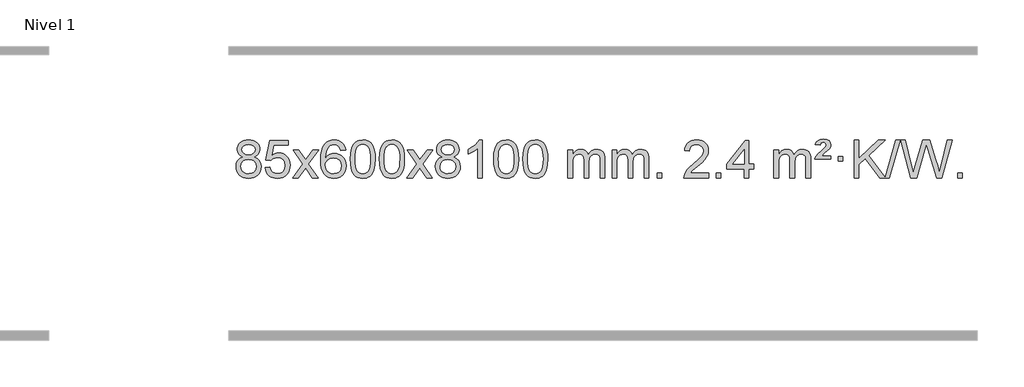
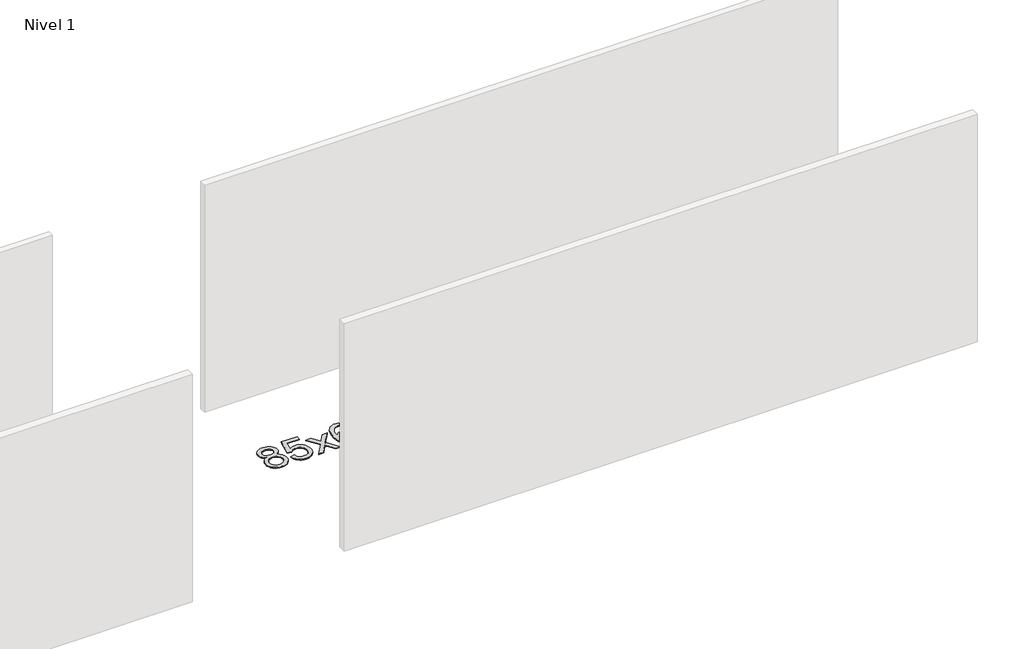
# One storey, part 8 of 12: 1 proxy.
"""IFC4 building model written with IfcOpenShell, lengths in millimetres."""

from ifc_helpers import new_model, si_unit, origin, origin_with_axes, place, context, project, spatial, polyline, outline, extrude, element, save

model = new_model("IFC4")

# Units and contexts
model_context = context("Model", 3, world=origin())
ifc_project = project(units=[si_unit("LENGTHUNIT", "METRE", prefix="MILLI")], contexts=[model_context])

# Site, building, storey
site = spatial("IfcSite", under=ifc_project)
building = spatial("IfcBuilding", under=site)
storey = spatial("IfcBuildingStorey", under=building, Name="Nivel 1", Elevation=0.0)

# Proxy
placement = place(None, origin())
element("IfcBuildingElementProxy", 1, Name="Texto de modelo 1", ObjectType="Texto de modelo 1", at=placement, inside=storey, context=model_context, shape_type="SweptSolid", body=[
    extrude(outline(polyline([(-1682.9857189, -6174.2616447), (-1709.8778927, -6161.0178929), (-1728.7502391, -6143.0652515), (-1739.8970635, -6120.7716026), (-1743.6126717, -6094.5048281), (-1741.5893207, -6074.0199324), (-1735.5192678, -6055.2395565), (-1725.4025129, -6038.1637006), (-1711.2390561, -6022.7923645), (-1693.709479, -6010.088173), (-1673.4943634, -6001.0137504), (-1650.5937092, -5995.5690969), (-1625.0075164, -5993.7542124), (-1599.2986964, -5995.6120165), (-1576.2263639, -6001.1854287), (-1555.7905191, -6010.4744491), (-1537.9911619, -6023.4790776), (-1523.5701876, -6039.1508506), (-1513.2694918, -6056.4413044), (-1507.0890743, -6075.3504389), (-1505.0289351, -6095.8782543), (-1508.6954923, -6121.2989001), (-1519.695164, -6143.2124043), (-1538.1505774, -6161.0546811), (-1564.1843599, -6174.2616447), (-1533.2700096, -6190.1909351), (-1510.7678942, -6213.6495436), (-1497.0458958, -6243.5092989), (-1492.4718963, -6278.6420295), (-1494.740502, -6303.6947933), (-1501.5463189, -6326.6628926), (-1512.8893471, -6347.5463272), (-1528.7695865, -6366.3450971), (-1548.3531714, -6381.88198), (-1570.8062358, -6392.9797536), (-1596.1287798, -6399.6384177), (-1624.3208034, -6401.8579724), (-1652.512827, -6399.6292206), (-1677.835371, -6392.9429654), (-1700.2884354, -6381.7992066), (-1719.8720203, -6366.1979443), (-1735.7522597, -6347.26735), (-1747.0952879, -6326.135595), (-1753.9011048, -6302.8026795), (-1756.1697105, -6277.2686033), (-1751.41177, -6240.7747094), (-1737.1379486, -6210.7555386), (-1714.0840102, -6188.2411605), (-1682.9857189, -6174.2616447)]), holes=[polyline([(-1693.3845166, -6095.9763561), (-1688.9331445, -6117.902123), (-1675.5790281, -6135.413306), (-1653.7145748, -6146.8912243), (-1623.7321922, -6150.717197), (-1594.4487854, -6146.9157497), (-1572.9154259, -6135.5114079), (-1559.6716741, -6118.5888361), (-1555.2570902, -6098.232699), (-1559.8188269, -6077.1040098), (-1573.5040371, -6059.629615), (-1595.3317022, -6047.8941794), (-1624.3208034, -6043.9823675), (-1653.4938456, -6047.8083402), (-1675.2847225, -6059.2862585), (-1688.8595681, -6076.1107284), (-1693.3845166, -6095.9763561)]), polyline([(-1705.9415554, -6275.5027698), (-1703.844628, -6294.7184726), (-1697.5538459, -6313.3210389), (-1685.9410376, -6329.5446349), (-1667.8780316, -6341.623427), (-1646.2465703, -6349.1282197), (-1623.9283959, -6351.6298173), (-1589.7398958, -6346.3691048), (-1575.8462192, -6339.7932141), (-1564.086258, -6330.5869672), (-1548.0466031, -6306.6869002), (-1542.7000514, -6277.0723996), (-1548.2182813, -6246.9551269), (-1564.7729711, -6222.5277625), (-1576.8517633, -6213.0854579), (-1591.0152201, -6206.3409547), (-1625.5961276, -6200.9453521), (-1659.3063811, -6206.2673783), (-1673.043708, -6212.919911), (-1684.7025015, -6222.2334569), (-1700.6317919, -6246.1948375), (-1705.9415554, -6275.5027698)])]), origin_with_axes(), (0.0, 0.0, 1.0), 10.0),
    extrude(outline(polyline([(-1448.5222606, -6288.8446235), (-1398.2941056, -6282.5661041), (-1389.0725302, -6312.7201649), (-1372.9838243, -6334.3148381), (-1350.1015642, -6347.3010725), (-1320.4993263, -6351.6298173), (-1301.3694626, -6350.1245668), (-1284.4959417, -6345.6088153), (-1269.8787638, -6338.0825628), (-1257.5179287, -6327.5458094), (-1247.6893481, -6314.519721), (-1240.6689334, -6299.5254641), (-1235.0526016, -6263.6324441), (-1240.3133141, -6229.8363514), (-1246.8892048, -6215.9181493), (-1256.0954517, -6203.9865099), (-1267.9627117, -6194.4154467), (-1282.5216417, -6187.5789729), (-1319.7145114, -6182.1097939), (-1344.0805622, -6184.2925604), (-1363.8112999, -6190.8408599), (-1379.568912, -6200.8717757), (-1392.0155862, -6213.5023908), (-1442.2437412, -6207.2238715), (-1398.2941056, -6000.0327318), (-1203.6600046, -6000.0327318), (-1203.6600046, -6050.2608869), (-1357.6799333, -6050.2608869), (-1379.1642418, -6160.919791), (-1361.438461, -6148.2155994), (-1343.2834845, -6139.1411769), (-1324.6993124, -6133.6965234), (-1305.6859446, -6131.8816388), (-1281.2248576, -6134.1318504), (-1258.7564648, -6140.882485), (-1238.2807661, -6152.1335427), (-1219.7977615, -6167.8850234), (-1204.4969362, -6187.1743027), (-1193.5677752, -6209.038756), (-1187.0102787, -6233.4783832), (-1184.8244465, -6260.4931844), (-1186.7926152, -6286.5147042), (-1192.6971212, -6310.7213394), (-1202.5379646, -6333.1130902), (-1216.3151453, -6353.6899565), (-1237.1863171, -6374.7634634), (-1261.5401052, -6389.8159684), (-1289.3765095, -6398.8474714), (-1320.69553, -6401.8579724), (-1346.6158823, -6399.9235262), (-1370.0285056, -6394.1201877), (-1390.9334, -6384.447957), (-1409.3305654, -6370.9068338), (-1424.6375221, -6354.1712688), (-1436.2717902, -6334.915712), (-1444.2333697, -6313.1401636), (-1448.5222606, -6288.8446235)])), origin_with_axes(), (0.0, 0.0, 1.0), 10.0),
    extrude(outline(polyline([(-1159.7103689, -6395.579453), (-1052.3869282, -6247.2494325), (-1153.4318496, -6100.4890419), (-1093.0011005, -6100.4890419), (-1044.2444734, -6171.122385), (-1021.4848406, -6204.4770192), (-1001.7663657, -6177.2047007), (-946.2407099, -6100.4890419), (-885.8099608, -6100.4890419), (-991.9561791, -6247.2494325), (-889.7340354, -6395.579453), (-950.1647845, -6395.579453), (-1011.6746541, -6306.4048574), (-1022.9563686, -6290.1199477), (-1099.2796199, -6395.579453), (-1159.7103689, -6395.579453)])), origin_with_axes(), (0.0, 0.0, 1.0), 10.0),
    extrude(outline(polyline([(-600.9221437, -6100.4890419), (-651.1502988, -6106.7675613), (-659.2437027, -6081.874213), (-670.1820607, -6064.8780648), (-692.9662189, -6049.2062918), (-720.5083176, -6043.9823675), (-743.8565616, -6047.0235253), (-765.8313794, -6056.1469988), (-784.7037258, -6075.3627017), (-800.1179814, -6101.8134171), (-810.5290419, -6139.227016), (-814.3918028, -6191.3313693), (-794.2441322, -6167.8237098), (-770.0988106, -6151.2567573), (-743.3047386, -6141.434308), (-715.2108169, -6138.1601582), (-691.077758, -6140.398107), (-668.8086346, -6147.1119534), (-648.4034466, -6158.3016975), (-629.862194, -6173.9673391), (-614.4540698, -6193.1769106), (-603.4482668, -6214.9984443), (-596.844785, -6239.4319401), (-594.6436244, -6266.4773982), (-598.7884282, -6302.4439945), (-611.2228396, -6335.786366), (-630.9167891, -6364.0642287), (-656.840207, -6384.8372987), (-687.815871, -6397.602804), (-722.6665587, -6401.8579724), (-752.6090874, -6399.0375437), (-779.6514797, -6390.5762579), (-803.7937357, -6376.4741147), (-825.0358552, -6356.7311143), (-842.3539001, -6330.5133908), (-854.7239322, -6296.9870783), (-862.1459515, -6256.1521768), (-864.6199579, -6208.0086864), (-861.8731057, -6154.0342663), (-853.632549, -6107.9693092), (-839.8982878, -6069.8138149), (-820.6703222, -6039.5677835), (-799.8298072, -6019.5243462), (-775.6660915, -6005.2076052), (-748.179175, -5996.6175606), (-717.3690579, -5993.7542124), (-694.2354118, -5995.5261773), (-673.2967949, -6000.8420722), (-654.5532073, -6009.7018969), (-638.0046489, -6022.1056515), (-624.0987094, -6037.6364031), (-613.2829788, -6055.8772186), (-605.5574569, -6076.8280983), (-600.9221437, -6100.4890419)]), holes=[polyline([(-814.3918028, -6265.6925832), (-811.485535, -6287.9494439), (-802.7667318, -6309.2007605), (-789.2286743, -6327.472233), (-771.8646442, -6340.7895612), (-750.9076332, -6348.9197533), (-726.5906333, -6351.6298173), (-693.4444655, -6346.0134855), (-679.5293291, -6338.9930708), (-667.3861575, -6329.1644901), (-657.5361171, -6316.9262824), (-650.500374, -6302.6769865), (-644.8717794, -6268.1451299), (-650.4267976, -6234.9989621), (-657.3705702, -6221.3781312), (-667.0918519, -6209.725469), (-679.2718117, -6200.3904634), (-693.5916183, -6193.7226022), (-728.6507725, -6188.3883133), (-761.7478893, -6193.7226022), (-789.4248781, -6209.725469), (-800.3479076, -6221.2248471), (-808.1500716, -6234.3858254), (-812.83137, -6249.2084042), (-814.3918028, -6265.6925832)])]), origin_with_axes(), (0.0, 0.0, 1.0), 10.0),
    extrude(outline(polyline([(-550.6939887, -6197.9041943), (-547.002906, -6133.5861588), (-535.9296579, -6082.2911459), (-517.5846091, -6043.2343407), (-505.7265461, -6028.0009605), (-492.0781241, -6015.6309284), (-476.5933578, -6006.0598651), (-459.2262619, -5999.2233914), (-418.8450816, -5993.7542124), (-387.8939431, -5996.991574), (-360.1801661, -6006.7036586), (-337.0036004, -6022.5103217), (-319.6640957, -6044.0314184), (-306.5674967, -6071.0830078), (-296.119648, -6103.4811488), (-289.2770429, -6144.6226186), (-286.9961745, -6197.9041943), (-290.650469, -6261.8543477), (-301.6133525, -6313.0267333), (-319.8480367, -6352.1203266), (-331.6785085, -6367.3996922), (-345.3177335, -6379.8341036), (-360.8208939, -6389.4695462), (-378.2431721, -6396.3520052), (-418.8450816, -6401.8579724), (-446.5098076, -6399.4667394), (-471.035274, -6392.2930405), (-492.4214806, -6380.3368757), (-510.6684276, -6363.5982449), (-528.1796106, -6333.3399508), (-540.6875984, -6295.6381776), (-548.1923911, -6250.4929255), (-550.6939887, -6197.9041943)]), holes=[polyline([(-500.4658336, -6197.8060924), (-498.9943056, -6241.4706195), (-494.5797217, -6276.8148822), (-487.2220818, -6303.8388804), (-476.9213859, -6322.5426142), (-464.462449, -6335.2682656), (-450.630086, -6344.3580165), (-435.4242968, -6349.8118671), (-418.8450816, -6351.6298173), (-402.2658663, -6349.8057357), (-387.0600772, -6344.3334911), (-373.2277142, -6335.2130833), (-360.7687773, -6322.4445124), (-350.4680814, -6303.7101217), (-343.1104415, -6276.6922549), (-338.6958576, -6241.3909118), (-337.2243296, -6197.8060924), (-338.6468066, -6155.2973278), (-342.9142378, -6120.5753989), (-350.026623, -6093.6403055), (-359.9839624, -6074.4920476), (-372.2344328, -6061.1440625), (-386.2262114, -6051.6097875), (-401.959298, -6045.8892225), (-419.4336928, -6043.9823675), (-435.9270689, -6045.6623619), (-450.8753406, -6050.7023452), (-464.278508, -6059.1023175), (-476.136571, -6070.8622786), (-486.7806234, -6091.708925), (-494.3835179, -6119.8151094), (-498.9452547, -6155.1808319), (-500.4658336, -6197.8060924)])]), origin_with_axes(), (0.0, 0.0, 1.0), 10.0),
    extrude(outline(polyline([(-243.0465388, -6197.9041943), (-239.3554561, -6133.5861588), (-228.2822081, -6082.2911459), (-209.9371593, -6043.2343407), (-198.0790963, -6028.0009605), (-184.4306743, -6015.6309284), (-168.945908, -6006.0598651), (-151.5788121, -5999.2233914), (-111.1976318, -5993.7542124), (-80.2464932, -5996.991574), (-52.5327163, -6006.7036586), (-29.3561506, -6022.5103217), (-12.0166459, -6044.0314184), (1.0799532, -6071.0830078), (11.5278018, -6103.4811488), (18.3704069, -6144.6226186), (20.6512753, -6197.9041943), (16.9969808, -6261.8543477), (6.0340974, -6313.0267333), (-12.2005869, -6352.1203266), (-24.0310587, -6367.3996922), (-37.6702837, -6379.8341036), (-53.1734441, -6389.4695462), (-70.5957222, -6396.3520052), (-111.1976318, -6401.8579724), (-138.8623578, -6399.4667394), (-163.3878241, -6392.2930405), (-184.7740308, -6380.3368757), (-203.0209778, -6363.5982449), (-220.5321607, -6333.3399508), (-233.0401486, -6295.6381776), (-240.5449413, -6250.4929255), (-243.0465388, -6197.9041943)]), holes=[polyline([(-192.8183838, -6197.8060924), (-191.3468558, -6241.4706195), (-186.9322718, -6276.8148822), (-179.5746319, -6303.8388804), (-169.2739361, -6322.5426142), (-156.8149992, -6335.2682656), (-142.9826361, -6344.3580165), (-127.776847, -6349.8118671), (-111.1976318, -6351.6298173), (-94.6184165, -6349.8057357), (-79.4126274, -6344.3334911), (-65.5802644, -6335.2130833), (-53.1213275, -6322.4445124), (-42.8206316, -6303.7101217), (-35.4629917, -6276.6922549), (-31.0484077, -6241.3909118), (-29.5768798, -6197.8060924), (-30.9993568, -6155.2973278), (-35.266788, -6120.5753989), (-42.3791732, -6093.6403055), (-52.3365125, -6074.4920476), (-64.586983, -6061.1440625), (-78.5787615, -6051.6097875), (-94.3118482, -6045.8892225), (-111.786243, -6043.9823675), (-128.2796191, -6045.6623619), (-143.2278908, -6050.7023452), (-156.6310582, -6059.1023175), (-168.4891211, -6070.8622786), (-179.1331735, -6091.708925), (-186.7360681, -6119.8151094), (-191.2978048, -6155.1808319), (-192.8183838, -6197.8060924)])]), origin_with_axes(), (0.0, 0.0, 1.0), 10.0),
    extrude(outline(polyline([(45.7653528, -6395.579453), (153.0887936, -6247.2494325), (52.0438722, -6100.4890419), (112.4746213, -6100.4890419), (161.2312484, -6171.122385), (183.9908812, -6204.4770192), (203.7093561, -6177.2047007), (259.2350119, -6100.4890419), (319.665761, -6100.4890419), (213.5195426, -6247.2494325), (315.7416864, -6395.579453), (255.3109373, -6395.579453), (193.8010677, -6306.4048574), (182.5193532, -6290.1199477), (106.1961019, -6395.579453), (45.7653528, -6395.579453)])), origin_with_axes(), (0.0, 0.0, 1.0), 10.0),
    extrude(outline(polyline([(420.3182749, -6174.2616447), (393.426101, -6161.0178929), (374.5537547, -6143.0652515), (363.4069302, -6120.7716026), (359.6913221, -6094.5048281), (361.714673, -6074.0199324), (367.784726, -6055.2395565), (377.9014808, -6038.1637006), (392.0649376, -6022.7923645), (409.5945147, -6010.088173), (429.8096303, -6001.0137504), (452.7102845, -5995.5690969), (478.2964773, -5993.7542124), (504.0052974, -5995.6120165), (527.0776299, -6001.1854287), (547.5134747, -6010.4744491), (565.3128319, -6023.4790776), (579.7338061, -6039.1508506), (590.034502, -6056.4413044), (596.2149195, -6075.3504389), (598.2750587, -6095.8782543), (594.6085014, -6121.2989001), (583.6088298, -6143.2124043), (565.1534164, -6161.0546811), (539.1196338, -6174.2616447), (570.0339842, -6190.1909351), (592.5360995, -6213.6495436), (606.258098, -6243.5092989), (610.8320974, -6278.6420295), (608.5634918, -6303.6947933), (601.7576749, -6326.6628926), (590.4146467, -6347.5463272), (574.5344072, -6366.3450971), (554.9508224, -6381.88198), (532.4977579, -6392.9797536), (507.1752139, -6399.6384177), (478.9831904, -6401.8579724), (450.7911668, -6399.6292206), (425.4686228, -6392.9429654), (403.0155584, -6381.7992066), (383.4319735, -6366.1979443), (367.551734, -6347.26735), (356.2087058, -6326.135595), (349.4028889, -6302.8026795), (347.1342833, -6277.2686033), (351.8922238, -6240.7747094), (366.1660452, -6210.7555386), (389.2199835, -6188.2411605), (420.3182749, -6174.2616447)]), holes=[polyline([(409.9194771, -6095.9763561), (414.3708493, -6117.902123), (427.7249657, -6135.413306), (449.589419, -6146.8912243), (479.5718016, -6150.717197), (508.8552084, -6146.9157497), (530.3885678, -6135.5114079), (543.6323197, -6118.5888361), (548.0469036, -6098.232699), (543.4851669, -6077.1040098), (529.7999566, -6059.629615), (507.9722916, -6047.8941794), (478.9831904, -6043.9823675), (449.8101481, -6047.8083402), (428.0192713, -6059.2862585), (414.4444257, -6076.1107284), (409.9194771, -6095.9763561)]), polyline([(397.3624384, -6275.5027698), (399.4593657, -6294.7184726), (405.7501479, -6313.3210389), (417.3629562, -6329.5446349), (435.4259621, -6341.623427), (457.0574235, -6349.1282197), (479.3755978, -6351.6298173), (513.5640979, -6346.3691048), (527.4577746, -6339.7932141), (539.2177357, -6330.5869672), (555.2573907, -6306.6869002), (560.6039424, -6277.0723996), (555.0857124, -6246.9551269), (538.5310227, -6222.5277625), (526.4522305, -6213.0854579), (512.2887737, -6206.3409547), (477.7078661, -6200.9453521), (443.9976126, -6206.2673783), (430.2602858, -6212.919911), (418.6014922, -6222.2334569), (402.6722018, -6246.1948375), (397.3624384, -6275.5027698)])]), origin_with_axes(), (0.0, 0.0, 1.0), 10.0),
    extrude(outline(polyline([(843.1373147, -6395.579453), (792.9091596, -6395.579453), (792.9091596, -6082.4382987), (771.9398859, -6099.3976587), (745.3297549, -6116.3324932), (692.4528494, -6141.6918254), (692.4528494, -6094.2105225), (731.902062, -6072.7507395), (766.0782994, -6047.219729), (793.0195242, -6020.0700378), (810.7636991, -5993.7542124), (843.1373147, -5993.7542124), (843.1373147, -6395.579453)])), origin_with_axes(), (0.0, 0.0, 1.0), 10.0),
    extrude(outline(polyline([(962.429183, -6197.9041943), (966.1202656, -6133.5861588), (977.1935137, -6082.2911459), (995.5385625, -6043.2343407), (1007.3966255, -6028.0009605), (1021.0450475, -6015.6309284), (1036.5298138, -6006.0598651), (1053.8969097, -5999.2233914), (1094.27809, -5993.7542124), (1125.2292286, -5996.991574), (1152.9430055, -6006.7036586), (1176.1195712, -6022.5103217), (1193.4590759, -6044.0314184), (1206.555675, -6071.0830078), (1217.0035236, -6103.4811488), (1223.8461287, -6144.6226186), (1226.1269971, -6197.9041943), (1222.4727026, -6261.8543477), (1211.5098192, -6313.0267333), (1193.2751349, -6352.1203266), (1181.4446631, -6367.3996922), (1167.8054381, -6379.8341036), (1152.3022777, -6389.4695462), (1134.8799996, -6396.3520052), (1094.27809, -6401.8579724), (1066.613364, -6399.4667394), (1042.0878976, -6392.2930405), (1020.701691, -6380.3368757), (1002.454744, -6363.5982449), (984.9435611, -6333.3399508), (972.4355732, -6295.6381776), (964.9307805, -6250.4929255), (962.429183, -6197.9041943)]), holes=[polyline([(1012.657338, -6197.8060924), (1014.128866, -6241.4706195), (1018.54345, -6276.8148822), (1025.9010899, -6303.8388804), (1036.2017857, -6322.5426142), (1048.6607226, -6335.2682656), (1062.4930856, -6344.3580165), (1077.6988748, -6349.8118671), (1094.27809, -6351.6298173), (1110.8573053, -6349.8057357), (1126.0630944, -6344.3334911), (1139.8954574, -6335.2130833), (1152.3543943, -6322.4445124), (1162.6550902, -6303.7101217), (1170.0127301, -6276.6922549), (1174.427314, -6241.3909118), (1175.898842, -6197.8060924), (1174.476365, -6155.2973278), (1170.2089338, -6120.5753989), (1163.0965486, -6093.6403055), (1153.1392093, -6074.4920476), (1140.8887388, -6061.1440625), (1126.8969603, -6051.6097875), (1111.1638736, -6045.8892225), (1093.6894788, -6043.9823675), (1077.1961027, -6045.6623619), (1062.247831, -6050.7023452), (1048.8446636, -6059.1023175), (1036.9866007, -6070.8622786), (1026.3425483, -6091.708925), (1018.7396537, -6119.8151094), (1014.1779169, -6155.1808319), (1012.657338, -6197.8060924)])]), origin_with_axes(), (0.0, 0.0, 1.0), 10.0),
    extrude(outline(polyline([(1270.0766328, -6197.9041943), (1273.7677155, -6133.5861588), (1284.8409635, -6082.2911459), (1303.1860124, -6043.2343407), (1315.0440753, -6028.0009605), (1328.6924974, -6015.6309284), (1344.1772637, -6006.0598651), (1361.5443595, -5999.2233914), (1401.9255399, -5993.7542124), (1432.8766784, -5996.991574), (1460.5904554, -6006.7036586), (1483.7670211, -6022.5103217), (1501.1065258, -6044.0314184), (1514.2031248, -6071.0830078), (1524.6509735, -6103.4811488), (1531.4935786, -6144.6226186), (1533.7744469, -6197.9041943), (1530.1201525, -6261.8543477), (1519.157269, -6313.0267333), (1500.9225848, -6352.1203266), (1489.0921129, -6367.3996922), (1475.452888, -6379.8341036), (1459.9497276, -6389.4695462), (1442.5274494, -6396.3520052), (1401.9255399, -6401.8579724), (1374.2608138, -6399.4667394), (1349.7353475, -6392.2930405), (1328.3491408, -6380.3368757), (1310.1021939, -6363.5982449), (1292.5910109, -6333.3399508), (1280.0830231, -6295.6381776), (1272.5782304, -6250.4929255), (1270.0766328, -6197.9041943)]), holes=[polyline([(1320.3047879, -6197.8060924), (1321.7763158, -6241.4706195), (1326.1908998, -6276.8148822), (1333.5485397, -6303.8388804), (1343.8492356, -6322.5426142), (1356.3081725, -6335.2682656), (1370.1405355, -6344.3580165), (1385.3463246, -6349.8118671), (1401.9255399, -6351.6298173), (1418.5047551, -6349.8057357), (1433.7105442, -6344.3334911), (1447.5429073, -6335.2130833), (1460.0018442, -6322.4445124), (1470.30254, -6303.7101217), (1477.6601799, -6276.6922549), (1482.0747639, -6241.3909118), (1483.5462919, -6197.8060924), (1482.1238148, -6155.2973278), (1477.8563837, -6120.5753989), (1470.7439984, -6093.6403055), (1460.7866591, -6074.4920476), (1448.5361887, -6061.1440625), (1434.5444101, -6051.6097875), (1418.8113234, -6045.8892225), (1401.3369287, -6043.9823675), (1384.8435526, -6045.6623619), (1369.8952808, -6050.7023452), (1356.4921135, -6059.1023175), (1344.6340505, -6070.8622786), (1333.9899981, -6091.708925), (1326.3871035, -6119.8151094), (1321.8253668, -6155.1808319), (1320.3047879, -6197.8060924)])]), origin_with_axes(), (0.0, 0.0, 1.0), 10.0),
    extrude(outline(polyline([(1747.244106, -6395.579453), (1747.244106, -6100.4890419), (1797.4722611, -6100.4890419), (1797.4722611, -6149.0494653), (1812.5799483, -6126.7435537), (1832.0041177, -6109.2691589), (1855.0825815, -6097.9751816), (1881.1531522, -6094.2105225), (1909.0876584, -6098.048758), (1931.4794092, -6109.5634645), (1948.2057772, -6127.9943524), (1959.1441352, -6152.5811324), (1977.4523959, -6127.0439906), (1998.3358304, -6108.803175), (2021.794439, -6097.8586857), (2047.8282215, -6094.2105225), (2067.9360383, -6095.7280358), (2085.585177, -6100.2805755), (2100.7756377, -6107.8681416), (2113.5074204, -6118.4907342), (2123.5720587, -6132.2709806), (2130.761086, -6149.3315082), (2135.0745024, -6169.6723168), (2136.5123078, -6193.2934066), (2136.5123078, -6395.579453), (2086.2841528, -6395.579453), (2086.2841528, -6214.875817), (2085.1191931, -6189.8230531), (2081.6243142, -6172.9372695), (2075.0760146, -6161.3735121), (2064.7507933, -6152.2868268), (2051.4702533, -6146.4007149), (2036.0559977, -6144.4386776), (2008.8449928, -6149.4663982), (1986.6617085, -6164.54956), (1978.0563355, -6176.1194488), (1971.9096405, -6190.7182326), (1966.9922845, -6229.0024856), (1966.9922845, -6395.579453), (1916.7641294, -6395.579453), (1916.7641294, -6209.2840106), (1913.8578616, -6180.8835206), (1905.1390583, -6160.6254854), (1889.7983791, -6148.4853796), (1867.0264836, -6144.4386776), (1847.6758907, -6147.1364789), (1829.8458767, -6155.2298828), (1815.1305968, -6168.5226856), (1805.1242066, -6186.8186835), (1799.3852475, -6212.2025411), (1797.4722611, -6246.7589232), (1797.4722611, -6395.579453), (1747.244106, -6395.579453)])), origin_with_axes(), (0.0, 0.0, 1.0), 10.0),
    extrude(outline(polyline([(2211.8545404, -6395.579453), (2211.8545404, -6100.4890419), (2262.0826955, -6100.4890419), (2262.0826955, -6149.0494653), (2277.1903828, -6126.7435537), (2296.6145521, -6109.2691589), (2319.693016, -6097.9751816), (2345.7635867, -6094.2105225), (2373.6980929, -6098.048758), (2396.0898436, -6109.5634645), (2412.8162117, -6127.9943524), (2423.7545697, -6152.5811324), (2442.0628303, -6127.0439906), (2462.9462649, -6108.803175), (2486.4048734, -6097.8586857), (2512.438656, -6094.2105225), (2532.5464727, -6095.7280358), (2550.1956114, -6100.2805755), (2565.3860721, -6107.8681416), (2578.1178548, -6118.4907342), (2588.1824931, -6132.2709806), (2595.3715204, -6149.3315082), (2599.6849368, -6169.6723168), (2601.1227423, -6193.2934066), (2601.1227423, -6395.579453), (2550.8945872, -6395.579453), (2550.8945872, -6214.875817), (2549.7296276, -6189.8230531), (2546.2347486, -6172.9372695), (2539.6864491, -6161.3735121), (2529.3612278, -6152.2868268), (2516.0806877, -6146.4007149), (2500.6664321, -6144.4386776), (2473.4554272, -6149.4663982), (2451.2721429, -6164.54956), (2442.6667699, -6176.1194488), (2436.5200749, -6190.7182326), (2431.6027189, -6229.0024856), (2431.6027189, -6395.579453), (2381.3745638, -6395.579453), (2381.3745638, -6209.2840106), (2378.4682961, -6180.8835206), (2369.7494928, -6160.6254854), (2354.4088136, -6148.4853796), (2331.6369181, -6144.4386776), (2312.2863251, -6147.1364789), (2294.4563111, -6155.2298828), (2279.7410313, -6168.5226856), (2269.734641, -6186.8186835), (2263.9956819, -6212.2025411), (2262.0826955, -6246.7589232), (2262.0826955, -6395.579453), (2211.8545404, -6395.579453)])), origin_with_axes(), (0.0, 0.0, 1.0), 10.0),
    extrude(outline(polyline([(2689.0220137, -6395.579453), (2689.0220137, -6345.3512979), (2739.2501687, -6345.3512979), (2739.2501687, -6395.579453), (2689.0220137, -6395.579453)])), origin_with_axes(), (0.0, 0.0, 1.0), 10.0),
    extrude(outline(polyline([(3235.2532001, -6345.3512979), (3235.2532001, -6395.579453), (2971.555386, -6395.579453), (2972.6590319, -6377.8965918), (2976.9509885, -6360.9494945), (2989.3363491, -6333.8856424), (3007.4606687, -6307.6311307), (3033.6783922, -6280.1503456), (3070.3439644, -6249.4076736), (3124.545245, -6201.2641831), (3157.0660134, -6165.7267824), (3173.3263976, -6136.884834), (3178.7465256, -6108.8277005), (3173.6329659, -6083.6768347), (3158.2922867, -6062.7688747), (3134.7110508, -6048.6789943), (3104.875821, -6043.9823675), (3073.5445377, -6048.5686297), (3049.2030124, -6062.3274163), (3033.4944512, -6084.1796068), (3028.0620604, -6113.0460807), (2977.8339053, -6106.7675613), (2982.1534531, -6080.838012), (2990.0107994, -6058.1826125), (3001.4059442, -6038.8013627), (3016.3388875, -6022.6942627), (3034.4662728, -6010.0329907), (3055.4447436, -6000.989225), (3079.2742998, -5995.5629655), (3105.9549415, -5993.7542124), (3132.8747065, -5995.7653006), (3156.8330215, -6001.7985654), (3177.8298863, -6011.8540066), (3195.8653011, -6025.9316242), (3210.3506547, -6042.9890861), (3220.6973358, -6061.9840598), (3226.9053445, -6082.9165453), (3228.9746807, -6105.7865427), (3226.7428633, -6129.8092369), (3220.047411, -6153.4149983), (3208.1648225, -6177.4254299), (3190.3715967, -6202.6621347), (3162.0078949, -6232.7916701), (3118.4138784, -6271.4805933), (3060.6318797, -6319.795762), (3037.9703488, -6345.3512979), (3235.2532001, -6345.3512979)])), origin_with_axes(), (0.0, 0.0, 1.0), 10.0),
    extrude(outline(polyline([(3310.5954327, -6395.579453), (3310.5954327, -6345.3512979), (3360.8235878, -6345.3512979), (3360.8235878, -6395.579453), (3310.5954327, -6395.579453)])), origin_with_axes(), (0.0, 0.0, 1.0), 10.0),
    extrude(outline(polyline([(3605.6858438, -6395.579453), (3605.6858438, -6301.4016622), (3423.6087816, -6301.4016622), (3423.6087816, -6251.1735072), (3618.2428825, -6000.0327318), (3655.9139988, -6000.0327318), (3655.9139988, -6251.1735072), (3706.1421539, -6251.1735072), (3706.1421539, -6301.4016622), (3655.9139988, -6301.4016622), (3655.9139988, -6395.579453), (3605.6858438, -6395.579453)]), holes=[polyline([(3605.6858438, -6251.1735072), (3605.6858438, -6095.9763561), (3485.4129568, -6251.1735072), (3605.6858438, -6251.1735072)])]), origin_with_axes(), (0.0, 0.0, 1.0), 10.0),
    extrude(outline(polyline([(3919.611813, -6395.579453), (3919.611813, -6100.4890419), (3969.8399681, -6100.4890419), (3969.8399681, -6149.0494653), (3984.9476553, -6126.7435537), (4004.3718247, -6109.2691589), (4027.4502885, -6097.9751816), (4053.5208592, -6094.2105225), (4081.4553654, -6098.048758), (4103.8471162, -6109.5634645), (4120.5734842, -6127.9943524), (4131.5118422, -6152.5811324), (4149.8201028, -6127.0439906), (4170.7035374, -6108.803175), (4194.162146, -6097.8586857), (4220.1959285, -6094.2105225), (4240.3037452, -6095.7280358), (4257.952884, -6100.2805755), (4273.1433447, -6107.8681416), (4285.8751274, -6118.4907342), (4295.9397656, -6132.2709806), (4303.128793, -6149.3315082), (4307.4422094, -6169.6723168), (4308.8800148, -6193.2934066), (4308.8800148, -6395.579453), (4258.6518597, -6395.579453), (4258.6518597, -6214.875817), (4257.4869001, -6189.8230531), (4253.9920211, -6172.9372695), (4247.4437216, -6161.3735121), (4237.1185003, -6152.2868268), (4223.8379603, -6146.4007149), (4208.4237047, -6144.4386776), (4181.2126998, -6149.4663982), (4159.0294155, -6164.54956), (4150.4240424, -6176.1194488), (4144.2773474, -6190.7182326), (4139.3599914, -6229.0024856), (4139.3599914, -6395.579453), (4089.1318364, -6395.579453), (4089.1318364, -6209.2840106), (4086.2255686, -6180.8835206), (4077.5067653, -6160.6254854), (4062.1660861, -6148.4853796), (4039.3941906, -6144.4386776), (4020.0435977, -6147.1364789), (4002.2135836, -6155.2298828), (3987.4983038, -6168.5226856), (3977.4919136, -6186.8186835), (3971.7529544, -6212.2025411), (3969.8399681, -6246.7589232), (3969.8399681, -6395.579453), (3919.611813, -6395.579453)])), origin_with_axes(), (0.0, 0.0, 1.0), 10.0),
    extrude(outline(polyline([(4352.8296505, -6194.6668327), (4356.6556233, -6178.8479069), (4364.9942818, -6162.9799302), (4386.5031158, -6137.8413272), (4418.4597984, -6110.1030247), (4462.6056379, -6072.726214), (4469.7425486, -6061.1992448), (4472.1215188, -6049.3779701), (4470.2330579, -6037.2869152), (4464.5676752, -6027.5012541), (4455.198947, -6021.026531), (4442.2004499, -6018.8682899), (4429.7660384, -6020.4869707), (4420.9123451, -6025.343013), (4414.4866729, -6034.8098431), (4409.336325, -6050.2608869), (4359.1081699, -6043.9823675), (4369.948426, -6018.7701881), (4386.5766922, -6001.2099542), (4410.3418691, -5990.9092583), (4442.5928573, -5987.475693), (4478.3755127, -5991.6082341), (4503.1217083, -6004.0058573), (4517.5426825, -6022.3386434), (4522.3496739, -6044.2766731), (4518.253921, -6067.1834586), (4505.9666624, -6088.8149199), (4485.438847, -6108.6314968), (4448.9694786, -6136.6886303), (4423.3648917, -6163.2742358), (4522.3496739, -6163.2742358), (4522.3496739, -6194.6668327), (4352.8296505, -6194.6668327)])), origin_with_axes(), (0.0, 0.0, 1.0), 10.0),
    extrude(outline(polyline([(4597.6919065, -6219.7809102), (4597.6919065, -6169.5527552), (4647.9200616, -6169.5527552), (4647.9200616, -6219.7809102), (4597.6919065, -6219.7809102)])), origin_with_axes(), (0.0, 0.0, 1.0), 10.0),
    extrude(outline(polyline([(5038.5616895, -6395.579453), (4885.1303721, -6192.9009991), (4817.440085, -6257.4520265), (4817.440085, -6395.579453), (4767.2119299, -6395.579453), (4767.2119299, -5993.7542124), (4817.440085, -5993.7542124), (4817.440085, -6190.4484525), (5023.4540023, -5993.7542124), (5093.6949379, -5993.7542124), (4920.7413492, -6158.9577537), (5095.3949591, -6389.5349332), (5206.7082868, -5993.7542124), (5252.0313486, -5993.7542124), (5139.0179997, -6395.579453), (5099.9734572, -6395.579453), (5093.6949379, -6395.579453), (5038.5616895, -6395.579453)])), origin_with_axes(), (0.0, 0.0, 1.0), 10.0),
    extrude(outline(polyline([(5366.5162255, -6395.579453), (5256.9364419, -5993.7542124), (5308.7342268, -5993.7542124), (5372.3042355, -6257.844434), (5391.9246086, -6339.3670841), (5412.9184078, -6267.2622131), (5492.5771225, -5993.7542124), (5567.2326421, -5993.7542124), (5625.1127426, -6192.0180823), (5649.9079891, -6265.5944814), (5668.1794615, -6339.3670841), (5687.2112234, -6260.1988788), (5751.3698434, -5993.7542124), (5803.1676283, -5993.7542124), (5693.4897428, -6395.579453), (5639.8280224, -6395.579453), (5543.4919906, -6085.5775584), (5530.0520351, -6042.3146358), (5514.9443478, -6094.4067263), (5427.1431783, -6395.579453), (5366.5162255, -6395.579453)])), origin_with_axes(), (0.0, 0.0, 1.0), 10.0),
    extrude(outline(polyline([(5859.6743028, -6395.579453), (5859.6743028, -6345.3512979), (5909.9024578, -6345.3512979), (5909.9024578, -6395.579453), (5859.6743028, -6395.579453)])), origin_with_axes(), (0.0, 0.0, 1.0), 10.0),
])

save(model, "model.ifc")
